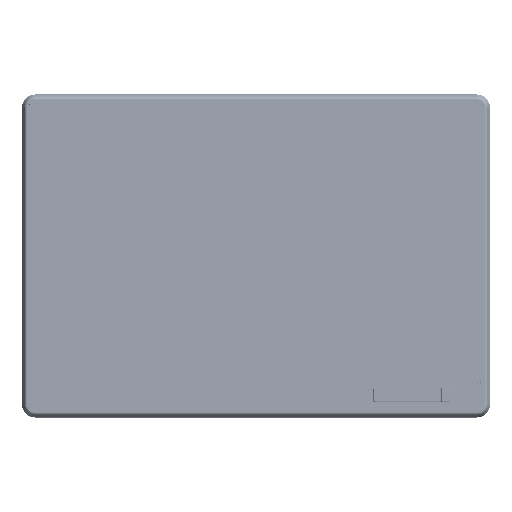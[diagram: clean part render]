
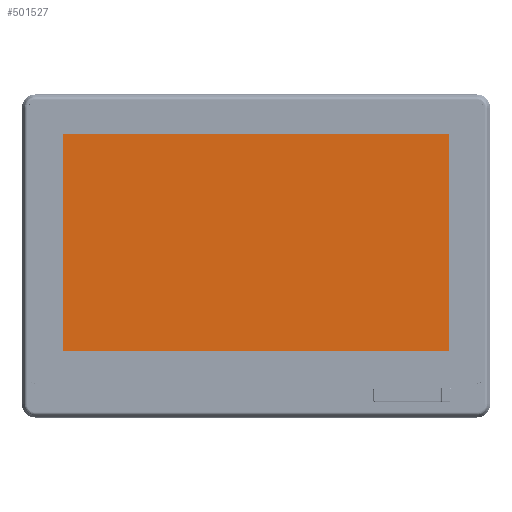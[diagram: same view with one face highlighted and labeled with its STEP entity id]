
A CAD part, top view. The second image highlights one B-rep face of the part: STEP entity #501527.
In plain terms, the highlighted planar face has unit normal (0, 0, 1).
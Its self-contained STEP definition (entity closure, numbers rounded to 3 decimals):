
#17452 = CARTESIAN_POINT ( 'NONE',  ( -187.56, 77.104, 296.4 ) ) ;
#28446 = VERTEX_POINT ( 'NONE', #479683 ) ;
#31728 = AXIS2_PLACEMENT_3D ( 'NONE', #436588, #170826, #481145 ) ;
#49341 = CARTESIAN_POINT ( 'NONE',  ( 68.76, -67.076, 296.4 ) ) ;
#79702 = PLANE ( 'NONE',  #31728 ) ;
#85853 = ORIENTED_EDGE ( 'NONE', *, *, #238017, .T. ) ;
#94285 = ORIENTED_EDGE ( 'NONE', *, *, #477533, .T. ) ;
#112542 = LINE ( 'NONE', #444815, #334584 ) ;
#116960 = ORIENTED_EDGE ( 'NONE', *, *, #446657, .T. ) ;
#138628 = DIRECTION ( 'NONE',  ( 0., 1., 0. ) ) ;
#170826 = DIRECTION ( 'NONE',  ( 0., 0., 1. ) ) ;
#177238 = CARTESIAN_POINT ( 'NONE',  ( 68.76, 77.104, 296.4 ) ) ;
#221283 = CARTESIAN_POINT ( 'NONE',  ( 68.76, -67.076, 296.4 ) ) ;
#222554 = DIRECTION ( 'NONE',  ( 0., -1., 0. ) ) ;
#235358 = VECTOR ( 'NONE', #398367, 1000. ) ;
#238017 = EDGE_CURVE ( 'NONE', #242020, #392831, #489456, .T. ) ;
#242020 = VERTEX_POINT ( 'NONE', #221283 ) ;
#249276 = LINE ( 'NONE', #177238, #235358 ) ;
#270198 = DIRECTION ( 'NONE',  ( 1., 0., 0. ) ) ;
#280513 = EDGE_LOOP ( 'NONE', ( #310938, #94285, #85853, #116960 ) ) ;
#299924 = VECTOR ( 'NONE', #222554, 1000. ) ;
#310938 = ORIENTED_EDGE ( 'NONE', *, *, #327790, .T. ) ;
#327790 = EDGE_CURVE ( 'NONE', #417725, #28446, #376323, .T. ) ;
#334584 = VECTOR ( 'NONE', #270198, 1000. ) ;
#371505 = VECTOR ( 'NONE', #138628, 1000. ) ;
#376323 = LINE ( 'NONE', #532937, #299924 ) ;
#392831 = VERTEX_POINT ( 'NONE', #429000 ) ;
#398367 = DIRECTION ( 'NONE',  ( -1., 0., 0. ) ) ;
#417725 = VERTEX_POINT ( 'NONE', #17452 ) ;
#429000 = CARTESIAN_POINT ( 'NONE',  ( 68.76, 77.104, 296.4 ) ) ;
#436588 = CARTESIAN_POINT ( 'NONE',  ( -59.35, 2.184, 296.4 ) ) ;
#444815 = CARTESIAN_POINT ( 'NONE',  ( 68.76, -67.076, 296.4 ) ) ;
#446657 = EDGE_CURVE ( 'NONE', #392831, #417725, #249276, .T. ) ;
#477533 = EDGE_CURVE ( 'NONE', #28446, #242020, #112542, .T. ) ;
#479683 = CARTESIAN_POINT ( 'NONE',  ( -187.56, -67.076, 296.4 ) ) ;
#481145 = DIRECTION ( 'NONE',  ( 1., 0., 0. ) ) ;
#487597 = FACE_OUTER_BOUND ( 'NONE', #280513, .T. ) ;
#489456 = LINE ( 'NONE', #49341, #371505 ) ;
#501527 = ADVANCED_FACE ( 'NONE', ( #487597 ), #79702, .T. ) ;
#532937 = CARTESIAN_POINT ( 'NONE',  ( -187.56, -67.076, 296.4 ) ) ;
